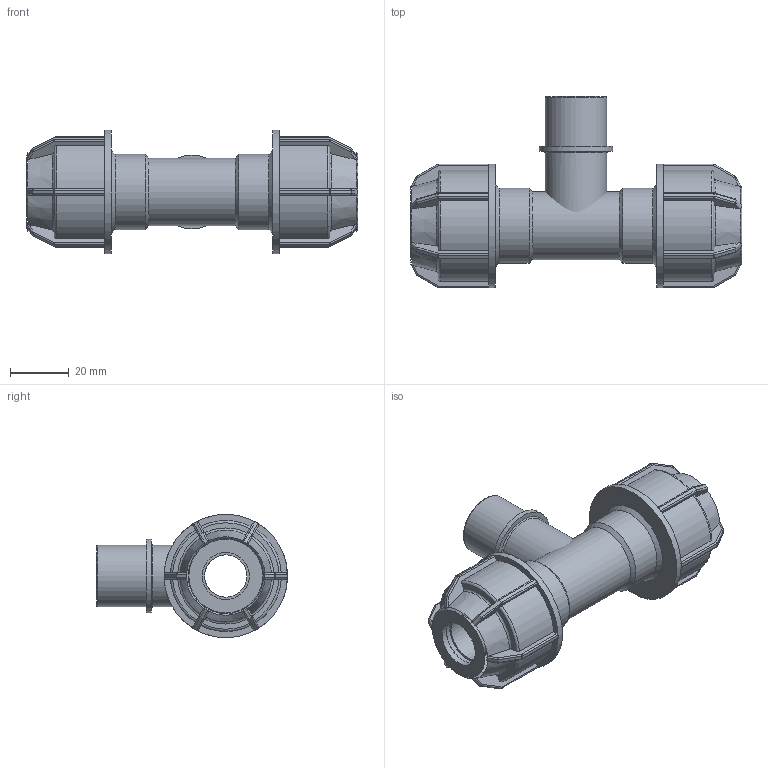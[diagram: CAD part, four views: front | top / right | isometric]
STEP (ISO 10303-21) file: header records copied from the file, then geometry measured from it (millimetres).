
FILE_DESCRIPTION(/* description */ ('PLASSON L.14 TEE MALE ADAPTOR (SILVER) 16-1/2"-16(20)'),/* implementation_level */ '2;1');
FILE_NAME(/* name */ 'C:\Dropbox\KIMPROJECTS-Inventor\99-16-3568-Processing\Silver+MF ISRAEL\148400\148400016005.ipt.stp',/* time_stamp */ '2018-04-09T13:05:16+03:00',/* author */ ('KIM'),/* organization */ (''),/* preprocessor_version */ 'ST-DEVELOPER v15.6',/* originating_system */ 'Autodesk Inventor 2015',/* authorisation */ '');
FILE_SCHEMA (('AUTOMOTIVE_DESIGN { 1 0 10303 214 3 1 1 }'));
Length unit declared in the file: millimetre
Products named in the file (1): 148400016005
Bounding box: 113 x 65 x 42 mm (x, y, z)
Volume: 69389.6 mm3; surface area: 26401.1 mm2
Topology: 2 solids, 2 shells, 417 faces, 994 edges, 572 vertices
Faces by surface type: plane 197, cylinder 124, sphere 48, torus 30, cone 18
Full cylindrical faces by diameter (mm): 14.4 x3, 16 x4, 20.955 x2, 23.04 x1, 25.146 x1, 25.6 x2, 42 x2
Entity records: 12121 total; most frequent: CARTESIAN_POINT 3154, DIRECTION 1886, ORIENTED_EDGE 1836, EDGE_CURVE 918, AXIS2_PLACEMENT_3D 762, VERTEX_POINT 544, EDGE_LOOP 454, FACE_OUTER_BOUND 413
